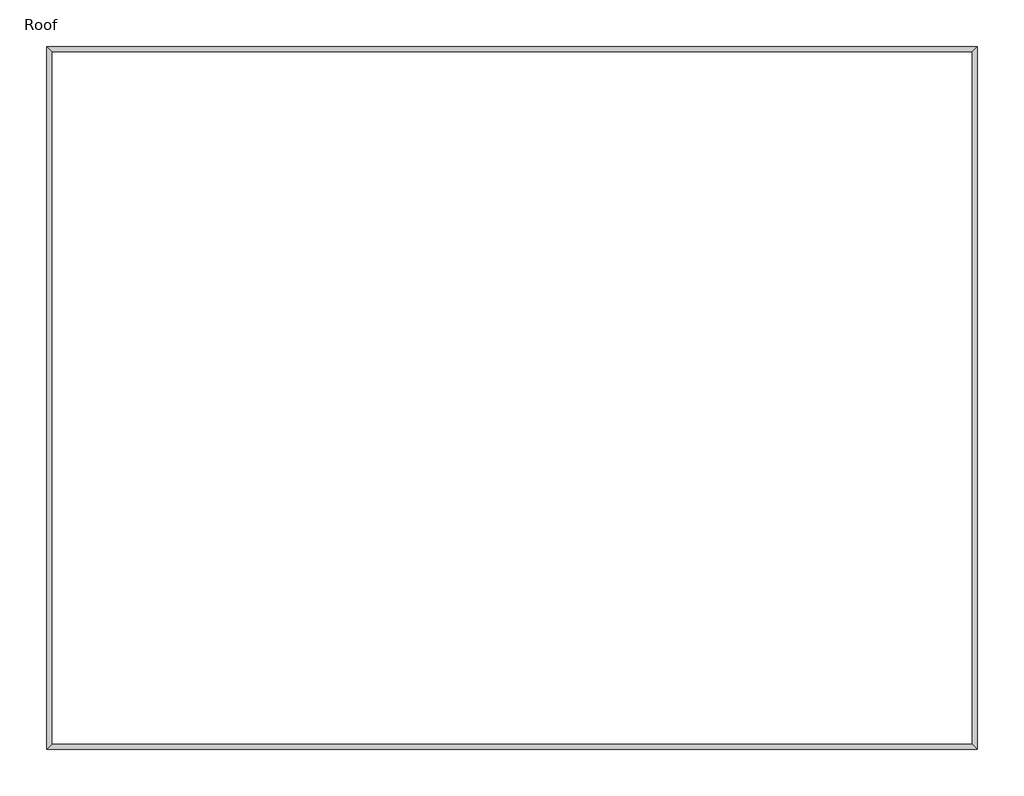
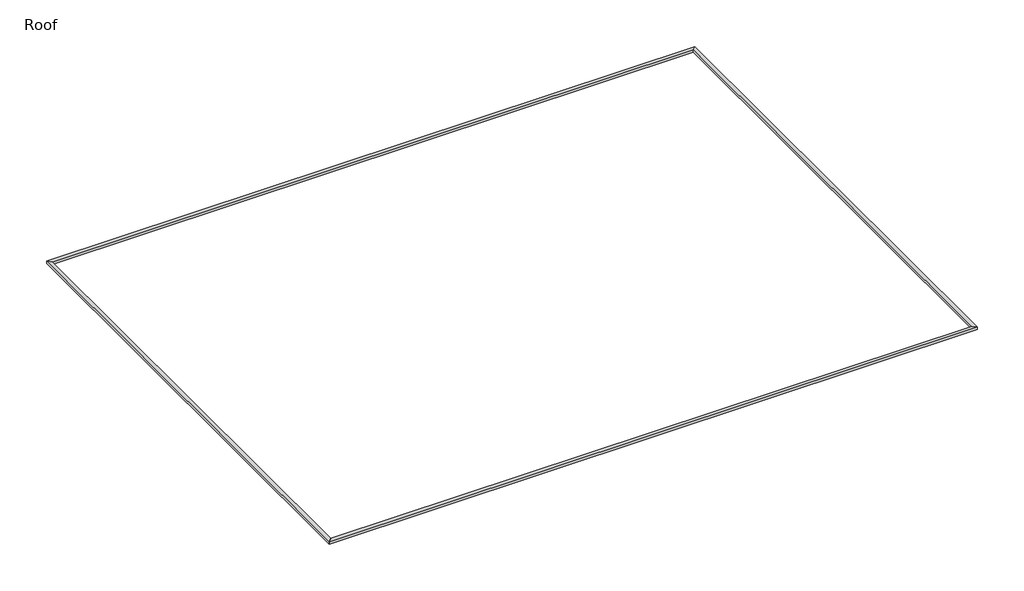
# One storey: 4 proxies.
"""IFC4 building model written with IfcOpenShell, lengths in millimetres."""

from ifc_helpers import new_model, si_unit, frame, origin, place, context, project, spatial, polyline, outline, extrude, element, save

model = new_model("IFC4")

# Units and contexts
model_context = context("Model", 3, world=origin())
ifc_project = project(units=[si_unit("LENGTHUNIT", "METRE", prefix="MILLI")], contexts=[model_context])

# Site, building, storey
site = spatial("IfcSite", under=ifc_project)
building = spatial("IfcBuilding", under=site)
storey = spatial("IfcBuildingStorey", under=building, Name="Roof", Elevation=10800.0)

# Proxies
placement = place(None, origin())
element("IfcBuildingElementProxy", 1, Name="Reveals", at=placement, inside=storey, context=model_context, shape_type="SweptSolid", body=[
    extrude(outline(polyline([(-17378.8100037, 5434.2363466), (-17481.3100037, 5536.7363466), (1223.6899963, 5536.7363466), (1121.1899963, 5434.2363466), (-17378.8100037, 5434.2363466)])), frame((0.0, 0.0, 11400.0), z_axis=(0.0, 0.0, 1.0), x_axis=(1.0, 0.0, 0.0)), (0.0, 0.0, 1.0), 75.0),
])
element("IfcBuildingElementProxy", 2, Name="Reveals", at=placement, inside=storey, context=model_context, shape_type="SweptSolid", body=[
    extrude(outline(polyline([(-17378.8100037, -8493.7636534), (-17481.3100037, -8596.2636534), (-17481.3100037, 5536.7363466), (-17378.8100037, 5434.2363466), (-17378.8100037, -8493.7636534)])), frame((0.0, 0.0, 11400.0), z_axis=(0.0, 0.0, 1.0), x_axis=(1.0, 0.0, 0.0)), (0.0, 0.0, 1.0), 75.0),
])
element("IfcBuildingElementProxy", 3, Name="Reveals", at=placement, inside=storey, context=model_context, shape_type="SweptSolid", body=[
    extrude(outline(polyline([(1121.1899963, -8493.7636534), (1223.6899963, -8596.2636534), (-17481.3100037, -8596.2636534), (-17378.8100037, -8493.7636534), (1121.1899963, -8493.7636534)])), frame((0.0, 0.0, 11400.0), z_axis=(0.0, 0.0, 1.0), x_axis=(1.0, 0.0, 0.0)), (0.0, 0.0, 1.0), 75.0),
])
element("IfcBuildingElementProxy", 4, Name="Reveals", at=placement, inside=storey, context=model_context, shape_type="SweptSolid", body=[
    extrude(outline(polyline([(1121.1899963, 5434.2363466), (1223.6899963, 5536.7363466), (1223.6899963, -8596.2636534), (1121.1899963, -8493.7636534), (1121.1899963, 5434.2363466)])), frame((0.0, 0.0, 11400.0), z_axis=(0.0, 0.0, 1.0), x_axis=(1.0, 0.0, 0.0)), (0.0, 0.0, 1.0), 75.0),
])

save(model, "model.ifc")
